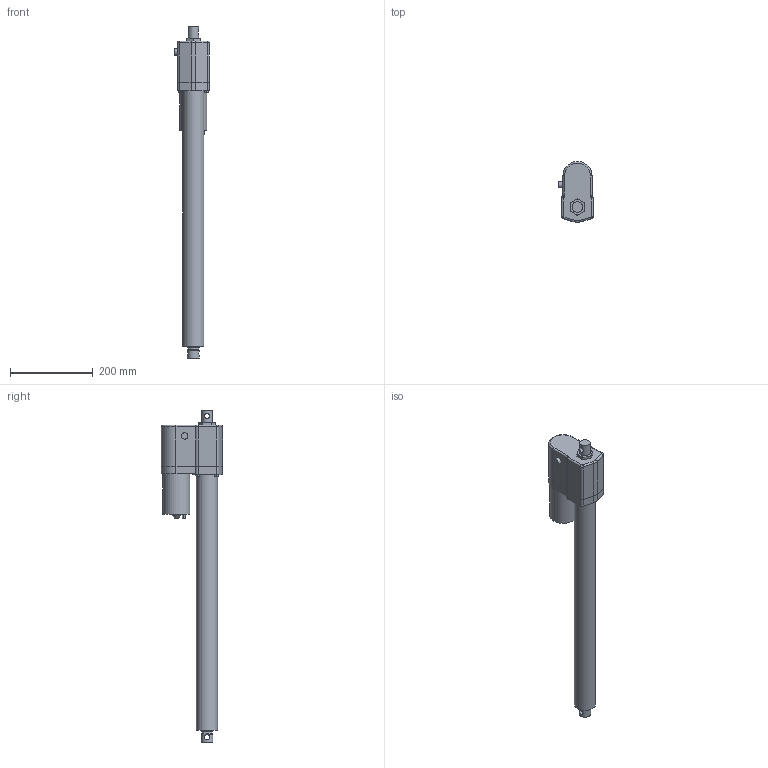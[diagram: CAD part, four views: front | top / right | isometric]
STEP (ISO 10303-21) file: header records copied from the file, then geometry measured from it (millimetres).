
FILE_DESCRIPTION (( 'STEP AP214' ), '1' );
FILE_NAME ('D12-05A5-20M0NPO-tollo.step', '2020-04-13T14:56:19', ( '' ), ( '' ), 'SwSTEP 2.0', 'SolidWorks 2010', '' );
FILE_SCHEMA (( 'AUTOMOTIVE_DESIGN' ));
Length unit declared in the file: millimetre
Products named in the file (6): Electrak-LA10-Motor-D12-05A5-20M0NPO-tollo_Electrak-LA10-Motor-D12-05A5-20M0NPO-tollo; Electrak-LA10-Rear-D12-05A5-20M0NPO-tollo_Electrak-LA10-Rear-D12-05A5-20M0NPO-tollo; Electrak-LA10-Tube-D12-05A5-20M0NPO-tollo_Electrak-LA10-Tube-D12-05A5-20M0NPO-tollo; Electrak-LA10-Rod-D12-05A5-20M0NPO-tollo_Electrak-LA10-Rod-D12-05A5-20M0NPO-tollo; Screw-M6S-M5-D12-05A5-20M0NPO-tollo_Screw-M6S-M5-D12-05A5-20M0NPO-tollo; D12-05A5-20M0NPO-tollo
Assembly tree (8 placements, depth 2):
  D12-05A5-20M0NPO-tollo
    Screw-M6S-M5-D12-05A5-20M0NPO-tollo_Screw-M6S-M5-D12-05A5-20M0NPO-tollo  x4
    Electrak-LA10-Rod-D12-05A5-20M0NPO-tollo_Electrak-LA10-Rod-D12-05A5-20M0NPO-tollo
    Electrak-LA10-Tube-D12-05A5-20M0NPO-tollo_Electrak-LA10-Tube-D12-05A5-20M0NPO-tollo
    Electrak-LA10-Motor-D12-05A5-20M0NPO-tollo_Electrak-LA10-Motor-D12-05A5-20M0NPO-tollo
    Electrak-LA10-Rear-D12-05A5-20M0NPO-tollo_Electrak-LA10-Rear-D12-05A5-20M0NPO-tollo
Bounding box: 82.72 x 147.19 x 800.6 mm (x, y, z)
Volume: 2729007 mm3; surface area: 329679.2 mm2
Topology: 8 solids, 8 shells, 193 faces, 439 edges, 283 vertices
Faces by surface type: plane 82, cylinder 77, cone 22, torus 12
Full cylindrical faces by diameter (mm): 4 x2, 4.126 x4, 4.8 x10, 5 x4, 7.878 x4, 12.8 x2, 16 x1, 25.4 x1, 28.6 x4, 51 x1, 65.3 x1
Entity records: 4139 total; most frequent: CARTESIAN_POINT 1139, DIRECTION 600, ORIENTED_EDGE 476, AXIS2_PLACEMENT_3D 251, EDGE_CURVE 238, EDGE_LOOP 188, VERTEX_POINT 174, FACE_OUTER_BOUND 149
